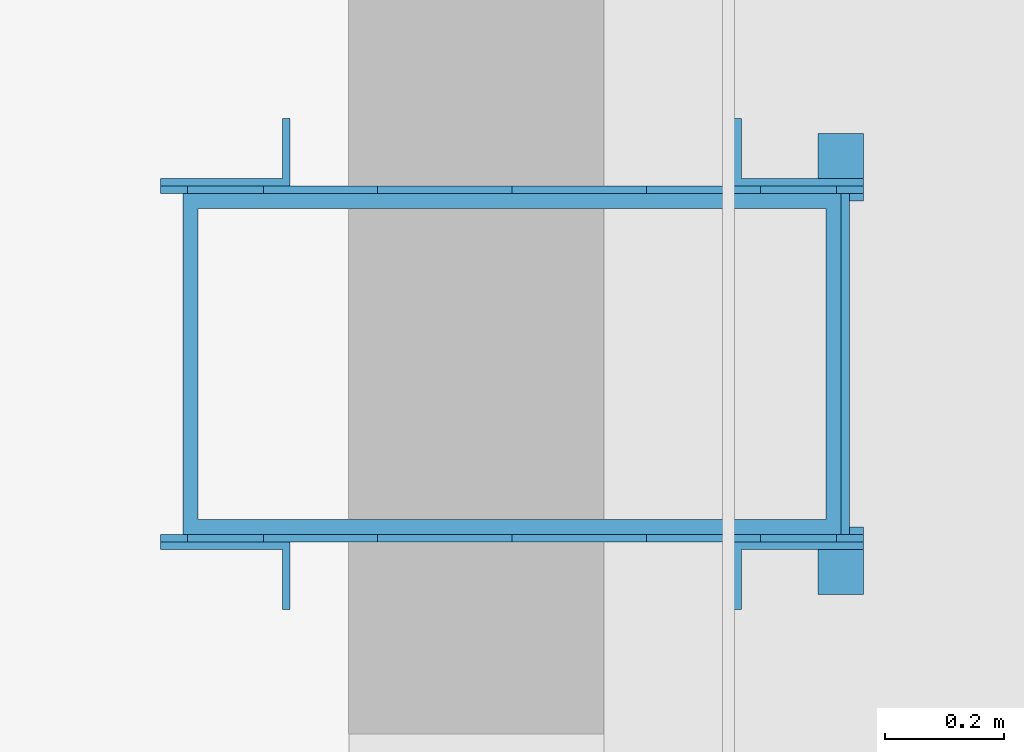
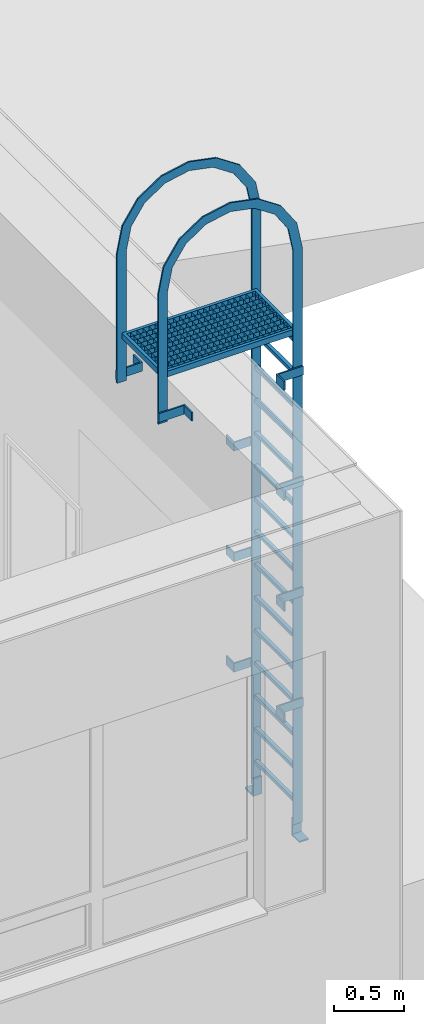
# One storey, part 75 of 194: 1 stair.
"""IFC2X3 building model written with IfcOpenShell, lengths in millimetres."""

from ifc_helpers import new_model, entity, si_unit, converted_unit, derived_unit, money_unit, direction, frame, origin_with_axes, place, context, subcontext, project, spatial, open_shell, faceted_brep, surface_model, element, save


model = new_model("IFC2X3")

# Units and contexts
model_context = context("Model", 3, precision=1e-05, world=origin_with_axes(), true_north=direction((0.0, 1.0)))
body_context = subcontext(model_context, "Body", "Model", "MODEL_VIEW")
ifc_project = project(units=[si_unit("LENGTHUNIT", "METRE", prefix="MILLI"), si_unit("AREAUNIT", "SQUARE_METRE"), si_unit("VOLUMEUNIT", "CUBIC_METRE"), converted_unit("PLANEANGLEUNIT", "DEGREE", entity("IfcPlaneAngleMeasure", 0.0174532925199), si_unit("PLANEANGLEUNIT", "RADIAN"), dimensions=[0, 0, 0, 0, 0, 0, 0]), si_unit("SOLIDANGLEUNIT", "STERADIAN"), money_unit("EUR"), converted_unit("TIMEUNIT", "Year", entity("IfcTimeMeasure", 31556926.0), si_unit("TIMEUNIT", "SECOND"), dimensions=[0, 0, 1, 0, 0, 0, 0]), si_unit("MASSUNIT", "GRAM", prefix="KILO"), si_unit("THERMODYNAMICTEMPERATUREUNIT", "DEGREE_CELSIUS"), si_unit("LUMINOUSINTENSITYUNIT", "LUMEN"), si_unit("ENERGYUNIT", "JOULE", prefix="MEGA"), derived_unit("THERMALCONDUCTANCEUNIT", [(si_unit("POWERUNIT", "WATT"), 1), (si_unit("LENGTHUNIT", "METRE"), -1), (si_unit("THERMODYNAMICTEMPERATUREUNIT", "KELVIN"), -1)]), derived_unit("SPECIFICHEATCAPACITYUNIT", [(si_unit("ENERGYUNIT", "JOULE"), 1), (si_unit("MASSUNIT", "GRAM", prefix="KILO"), -1), (si_unit("THERMODYNAMICTEMPERATUREUNIT", "KELVIN"), -1)]), derived_unit("MASSDENSITYUNIT", [(si_unit("MASSUNIT", "GRAM", prefix="KILO"), 1), (si_unit("VOLUMEUNIT", "CUBIC_METRE"), -1)])], contexts=[model_context])

# Site, building, storey
site_placement = place(None, origin_with_axes())
site = spatial("IfcSite", under=ifc_project, at=site_placement, Name="Site", CompositionType="ELEMENT")
building_placement = place(site_placement, origin_with_axes())
building = spatial("IfcBuilding", under=site, at=building_placement, Name="Building", CompositionType="ELEMENT")
storey_placement = place(building_placement, frame((0.0, 0.0, 3000.0), z_axis=(0.0, 0.0, 1.0), x_axis=(1.0, 0.0, 0.0)))
storey = spatial("IfcBuildingStorey", under=building, at=storey_placement, Name="2 KORRUS", CompositionType="ELEMENT", Elevation=3000.0)

# Stair
stair_placement = place(storey_placement, frame((100846.08527, 36240.355459, 0.0), z_axis=(0.0, 0.0, 1.0), x_axis=(0.0, 1.0, 0.0)))
element("IfcStair", 1, at=stair_placement, inside=storey, Name="FU - 001", ShapeType="NOTDEFINED", context=body_context, shape_type="SurfaceModel", body=[
    faceted_brep([(-287.3, -180.0, 4350.0), (287.3, -180.0, 4350.0), (287.3, -180.0, 4400.0), (-287.3, -180.0, 4400.0), (-287.3, 929.025224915, 4350.0), (287.3, 929.025224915, 4350.0), (-261.9, -154.6, 4350.0), (261.9, -154.6, 4350.0), (261.9, 903.625224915, 4350.0), (-261.9, 903.625224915, 4350.0), (287.3, 929.025224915, 4400.0), (-287.3, 929.025224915, 4400.0), (-261.9, -154.6, 4400.0), (-261.9, 903.625224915, 4400.0), (261.9, 903.625224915, 4400.0), (261.9, -154.6, 4400.0)], [[[0, 1, 2, 3]], [[0, 4, 5, 1], [6, 7, 8, 9]], [[1, 5, 10, 2]], [[3, 2, 10, 11], [12, 13, 14, 15]], [[4, 0, 3, 11]], [[5, 4, 11, 10]], [[7, 6, 12, 15]], [[8, 7, 15, 14]], [[9, 8, 14, 13]], [[6, 9, 13, 12]]]),
    surface_model("IfcShellBasedSurfaceModel", [(-261.9, -130.0, 4400.0), (-261.9, -130.0, 4350.0), (261.9, -130.0, 4350.0), (261.9, -130.0, 4400.0)], [open_shell([[[0, 1, 2, 3]]])]),
    surface_model("IfcShellBasedSurfaceModel", [(-261.9, -80.0, 4400.0), (-261.9, -80.0, 4350.0), (261.9, -80.0, 4350.0), (261.9, -80.0, 4400.0)], [open_shell([[[0, 1, 2, 3]]])]),
    surface_model("IfcShellBasedSurfaceModel", [(-261.9, -30.0, 4400.0), (-261.9, -30.0, 4350.0), (261.9, -30.0, 4350.0), (261.9, -30.0, 4400.0)], [open_shell([[[0, 1, 2, 3]]])]),
    surface_model("IfcShellBasedSurfaceModel", [(-261.9, 20.0, 4400.0), (-261.9, 20.0, 4350.0), (261.9, 20.0, 4350.0), (261.9, 20.0, 4400.0)], [open_shell([[[0, 1, 2, 3]]])]),
    surface_model("IfcShellBasedSurfaceModel", [(-261.9, 70.0, 4400.0), (-261.9, 70.0, 4350.0), (261.9, 70.0, 4350.0), (261.9, 70.0, 4400.0)], [open_shell([[[0, 1, 2, 3]]])]),
    surface_model("IfcShellBasedSurfaceModel", [(-261.9, 120.0, 4400.0), (-261.9, 120.0, 4350.0), (261.9, 120.0, 4350.0), (261.9, 120.0, 4400.0)], [open_shell([[[0, 1, 2, 3]]])]),
    surface_model("IfcShellBasedSurfaceModel", [(-261.9, 170.0, 4400.0), (-261.9, 170.0, 4350.0), (261.9, 170.0, 4350.0), (261.9, 170.0, 4400.0)], [open_shell([[[0, 1, 2, 3]]])]),
    surface_model("IfcShellBasedSurfaceModel", [(-261.9, 220.0, 4400.0), (-261.9, 220.0, 4350.0), (261.9, 220.0, 4350.0), (261.9, 220.0, 4400.0)], [open_shell([[[0, 1, 2, 3]]])]),
    surface_model("IfcShellBasedSurfaceModel", [(-261.9, 270.0, 4400.0), (-261.9, 270.0, 4350.0), (261.9, 270.0, 4350.0), (261.9, 270.0, 4400.0)], [open_shell([[[0, 1, 2, 3]]])]),
    surface_model("IfcShellBasedSurfaceModel", [(-261.9, 320.0, 4400.0), (-261.9, 320.0, 4350.0), (261.9, 320.0, 4350.0), (261.9, 320.0, 4400.0)], [open_shell([[[0, 1, 2, 3]]])]),
    surface_model("IfcShellBasedSurfaceModel", [(-261.9, 370.0, 4400.0), (-261.9, 370.0, 4350.0), (261.9, 370.0, 4350.0), (261.9, 370.0, 4400.0)], [open_shell([[[0, 1, 2, 3]]])]),
    surface_model("IfcShellBasedSurfaceModel", [(-261.9, 420.0, 4400.0), (-261.9, 420.0, 4350.0), (261.9, 420.0, 4350.0), (261.9, 420.0, 4400.0)], [open_shell([[[0, 1, 2, 3]]])]),
    surface_model("IfcShellBasedSurfaceModel", [(-261.9, 470.0, 4400.0), (-261.9, 470.0, 4350.0), (261.9, 470.0, 4350.0), (261.9, 470.0, 4400.0)], [open_shell([[[0, 1, 2, 3]]])]),
    surface_model("IfcShellBasedSurfaceModel", [(-261.9, 520.0, 4400.0), (-261.9, 520.0, 4350.0), (261.9, 520.0, 4350.0), (261.9, 520.0, 4400.0)], [open_shell([[[0, 1, 2, 3]]])]),
    surface_model("IfcShellBasedSurfaceModel", [(-261.9, 570.0, 4400.0), (-261.9, 570.0, 4350.0), (261.9, 570.0, 4350.0), (261.9, 570.0, 4400.0)], [open_shell([[[0, 1, 2, 3]]])]),
    surface_model("IfcShellBasedSurfaceModel", [(-261.9, 620.0, 4400.0), (-261.9, 620.0, 4350.0), (261.9, 620.0, 4350.0), (261.9, 620.0, 4400.0)], [open_shell([[[0, 1, 2, 3]]])]),
    surface_model("IfcShellBasedSurfaceModel", [(-261.9, 670.0, 4400.0), (-261.9, 670.0, 4350.0), (261.9, 670.0, 4350.0), (261.9, 670.0, 4400.0)], [open_shell([[[0, 1, 2, 3]]])]),
    surface_model("IfcShellBasedSurfaceModel", [(-261.9, 720.0, 4400.0), (-261.9, 720.0, 4350.0), (261.9, 720.0, 4350.0), (261.9, 720.0, 4400.0)], [open_shell([[[0, 1, 2, 3]]])]),
    surface_model("IfcShellBasedSurfaceModel", [(-261.9, 770.0, 4400.0), (-261.9, 770.0, 4350.0), (261.9, 770.0, 4350.0), (261.9, 770.0, 4400.0)], [open_shell([[[0, 1, 2, 3]]])]),
    surface_model("IfcShellBasedSurfaceModel", [(-261.9, 820.0, 4400.0), (-261.9, 820.0, 4350.0), (261.9, 820.0, 4350.0), (261.9, 820.0, 4400.0)], [open_shell([[[0, 1, 2, 3]]])]),
    surface_model("IfcShellBasedSurfaceModel", [(-261.9, 870.0, 4400.0), (-261.9, 870.0, 4350.0), (261.9, 870.0, 4350.0), (261.9, 870.0, 4400.0)], [open_shell([[[0, 1, 2, 3]]])]),
    surface_model("IfcShellBasedSurfaceModel", [(262.7, -154.6, 4400.0), (262.7, -154.6, 4350.0), (262.7, 903.625224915, 4350.0), (262.7, 903.625224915, 4400.0)], [open_shell([[[0, 1, 2, 3]]])]),
    surface_model("IfcShellBasedSurfaceModel", [(212.7, -154.6, 4400.0), (212.7, -154.6, 4350.0), (212.7, 903.625224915, 4350.0), (212.7, 903.625224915, 4400.0)], [open_shell([[[0, 1, 2, 3]]])]),
    surface_model("IfcShellBasedSurfaceModel", [(162.7, -154.6, 4400.0), (162.7, -154.6, 4350.0), (162.7, 903.625224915, 4350.0), (162.7, 903.625224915, 4400.0)], [open_shell([[[0, 1, 2, 3]]])]),
    surface_model("IfcShellBasedSurfaceModel", [(112.7, -154.6, 4400.0), (112.7, -154.6, 4350.0), (112.7, 903.625224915, 4350.0), (112.7, 903.625224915, 4400.0)], [open_shell([[[0, 1, 2, 3]]])]),
    surface_model("IfcShellBasedSurfaceModel", [(62.7, -154.6, 4400.0), (62.7, -154.6, 4350.0), (62.7, 903.625224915, 4350.0), (62.7, 903.625224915, 4400.0)], [open_shell([[[0, 1, 2, 3]]])]),
    surface_model("IfcShellBasedSurfaceModel", [(12.7, -154.6, 4400.0), (12.7, -154.6, 4350.0), (12.7, 903.625224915, 4350.0), (12.7, 903.625224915, 4400.0)], [open_shell([[[0, 1, 2, 3]]])]),
    surface_model("IfcShellBasedSurfaceModel", [(-37.3, -154.6, 4400.0), (-37.3, -154.6, 4350.0), (-37.3, 903.625224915, 4350.0), (-37.3, 903.625224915, 4400.0)], [open_shell([[[0, 1, 2, 3]]])]),
    surface_model("IfcShellBasedSurfaceModel", [(-87.3, -154.6, 4400.0), (-87.3, -154.6, 4350.0), (-87.3, 903.625224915, 4350.0), (-87.3, 903.625224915, 4400.0)], [open_shell([[[0, 1, 2, 3]]])]),
    surface_model("IfcShellBasedSurfaceModel", [(-137.3, -154.6, 4400.0), (-137.3, -154.6, 4350.0), (-137.3, 903.625224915, 4350.0), (-137.3, 903.625224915, 4400.0)], [open_shell([[[0, 1, 2, 3]]])]),
    surface_model("IfcShellBasedSurfaceModel", [(-187.3, -154.6, 4400.0), (-187.3, -154.6, 4350.0), (-187.3, 903.625224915, 4350.0), (-187.3, 903.625224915, 4400.0)], [open_shell([[[0, 1, 2, 3]]])]),
    surface_model("IfcShellBasedSurfaceModel", [(-237.3, -154.6, 4400.0), (-237.3, -154.6, 4350.0), (-237.3, 903.625224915, 4350.0), (-237.3, 903.625224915, 4400.0)], [open_shell([[[0, 1, 2, 3]]])]),
    faceted_brep([(-388.9, -141.9, 12.7), (-388.9, -141.9, 0.0), (-388.9, -218.1, 0.0), (-388.9, -218.1, 12.7), (-287.3, -141.9, 12.7), (-287.3, -141.9, 152.4), (-274.6, -141.9, 152.4), (-274.6, -141.9, 0.0), (-274.6, -218.1, 0.0), (-274.6, -218.1, 152.4), (-287.3, -218.1, 152.4), (-287.3, -218.1, 12.7)], [[[0, 1, 2, 3]], [[0, 4, 5, 6, 7, 1]], [[1, 7, 8, 2]], [[3, 2, 8, 9, 10, 11]], [[4, 0, 3, 11]], [[5, 4, 11, 10]], [[6, 5, 10, 9]], [[7, 6, 9, 8]]]),
    faceted_brep([(388.9, -141.9, 12.7), (388.9, -218.1, 12.7), (388.9, -218.1, 0.0), (388.9, -141.9, 0.0), (287.3, -141.9, 12.7), (287.3, -218.1, 12.7), (287.3, -218.1, 152.4), (274.6, -218.1, 152.4), (274.6, -218.1, 0.0), (274.6, -141.9, 0.0), (274.6, -141.9, 152.4), (287.3, -141.9, 152.4)], [[[0, 1, 2, 3]], [[4, 5, 1, 0]], [[1, 5, 6, 7, 8, 2]], [[3, 2, 8, 9]], [[0, 3, 9, 10, 11, 4]], [[11, 6, 5, 4]], [[10, 7, 6, 11]], [[9, 8, 7, 10]]]),
    faceted_brep([(-312.7, 761.725224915, 3998.4), (-312.7, 761.725224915, 4074.6), (-312.7, 967.125224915, 4074.6), (-312.7, 967.125224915, 3998.4), (-414.3, 761.725224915, 3998.4), (-414.3, 761.725224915, 4074.6), (-414.3, 749.025224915, 4074.6), (-300.0, 749.025224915, 4074.6), (-300.0, 967.125224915, 4074.6), (-300.0, 967.125224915, 3998.4), (-300.0, 749.025224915, 3998.4), (-414.3, 749.025224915, 3998.4)], [[[0, 1, 2, 3]], [[4, 5, 1, 0]], [[1, 5, 6, 7, 8, 2]], [[3, 2, 8, 9]], [[0, 3, 9, 10, 11, 4]], [[11, 6, 5, 4]], [[10, 7, 6, 11]], [[9, 8, 7, 10]]]),
    faceted_brep([(312.7, 761.725224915, 3998.4), (312.7, 967.125224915, 3998.4), (312.7, 967.125224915, 4074.6), (312.7, 761.725224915, 4074.6), (414.3, 761.725224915, 3998.4), (414.3, 749.025224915, 3998.4), (300.0, 749.025224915, 3998.4), (300.0, 967.125224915, 3998.4), (300.0, 967.125224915, 4074.6), (300.0, 749.025224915, 4074.6), (414.3, 749.025224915, 4074.6), (414.3, 761.725224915, 4074.6)], [[[0, 1, 2, 3]], [[0, 4, 5, 6, 7, 1]], [[1, 7, 8, 2]], [[3, 2, 8, 9, 10, 11]], [[4, 0, 3, 11]], [[5, 4, 11, 10]], [[6, 5, 10, 9]], [[7, 6, 9, 8]]]),
    faceted_brep([(-312.7, 761.725224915, 3998.4), (-312.7, 761.725224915, 4074.6), (-312.7, 967.125224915, 4074.6), (-312.7, 967.125224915, 3998.4), (-414.3, 761.725224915, 3998.4), (-414.3, 761.725224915, 4074.6), (-414.3, 749.025224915, 4074.6), (-300.0, 749.025224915, 4074.6), (-300.0, 967.125224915, 4074.6), (-300.0, 967.125224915, 3998.4), (-300.0, 749.025224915, 3998.4), (-414.3, 749.025224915, 3998.4)], [[[0, 1, 2, 3]], [[4, 5, 1, 0]], [[1, 5, 6, 7, 8, 2]], [[3, 2, 8, 9]], [[0, 3, 9, 10, 11, 4]], [[11, 6, 5, 4]], [[10, 7, 6, 11]], [[9, 8, 7, 10]]]),
    faceted_brep([(312.7, 761.725224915, 3998.4), (312.7, 967.125224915, 3998.4), (312.7, 967.125224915, 4074.6), (312.7, 761.725224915, 4074.6), (414.3, 761.725224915, 3998.4), (414.3, 749.025224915, 3998.4), (300.0, 749.025224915, 3998.4), (300.0, 967.125224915, 3998.4), (300.0, 967.125224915, 4074.6), (300.0, 749.025224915, 4074.6), (414.3, 749.025224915, 4074.6), (414.3, 761.725224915, 4074.6)], [[[0, 1, 2, 3]], [[0, 4, 5, 6, 7, 1]], [[1, 7, 8, 2]], [[3, 2, 8, 9, 10, 11]], [[4, 0, 3, 11]], [[5, 4, 11, 10]], [[6, 5, 10, 9]], [[7, 6, 9, 8]]]),
    faceted_brep([(-312.7, -12.7, 1113.9), (-312.7, -218.1, 1113.9), (-312.7, -218.1, 1190.1), (-312.7, -12.7, 1190.1), (-414.3, -12.7, 1113.9), (-414.3, 0.0, 1113.9), (-300.0, 0.0, 1113.9), (-300.0, -218.1, 1113.9), (-300.0, -218.1, 1190.1), (-300.0, 0.0, 1190.1), (-414.3, 0.0, 1190.1), (-414.3, -12.7, 1190.1)], [[[0, 1, 2, 3]], [[0, 4, 5, 6, 7, 1]], [[1, 7, 8, 2]], [[3, 2, 8, 9, 10, 11]], [[4, 0, 3, 11]], [[5, 4, 11, 10]], [[6, 5, 10, 9]], [[7, 6, 9, 8]]]),
    faceted_brep([(312.7, -12.7, 1113.9), (312.7, -12.7, 1190.1), (312.7, -218.1, 1190.1), (312.7, -218.1, 1113.9), (414.3, -12.7, 1113.9), (414.3, -12.7, 1190.1), (414.3, 0.0, 1190.1), (300.0, 0.0, 1190.1), (300.0, -218.1, 1190.1), (300.0, -218.1, 1113.9), (300.0, 0.0, 1113.9), (414.3, 0.0, 1113.9)], [[[0, 1, 2, 3]], [[4, 5, 1, 0]], [[1, 5, 6, 7, 8, 2]], [[3, 2, 8, 9]], [[0, 3, 9, 10, 11, 4]], [[11, 6, 5, 4]], [[10, 7, 6, 11]], [[9, 8, 7, 10]]]),
    faceted_brep([(-312.7, -12.7, 2075.4), (-312.7, -218.1, 2075.4), (-312.7, -218.1, 2151.6), (-312.7, -12.7, 2151.6), (-414.3, -12.7, 2075.4), (-414.3, 0.0, 2075.4), (-300.0, 0.0, 2075.4), (-300.0, -218.1, 2075.4), (-300.0, -218.1, 2151.6), (-300.0, 0.0, 2151.6), (-414.3, 0.0, 2151.6), (-414.3, -12.7, 2151.6)], [[[0, 1, 2, 3]], [[0, 4, 5, 6, 7, 1]], [[1, 7, 8, 2]], [[3, 2, 8, 9, 10, 11]], [[4, 0, 3, 11]], [[5, 4, 11, 10]], [[6, 5, 10, 9]], [[7, 6, 9, 8]]]),
    faceted_brep([(312.7, -12.7, 2075.4), (312.7, -12.7, 2151.6), (312.7, -218.1, 2151.6), (312.7, -218.1, 2075.4), (414.3, -12.7, 2075.4), (414.3, -12.7, 2151.6), (414.3, 0.0, 2151.6), (300.0, 0.0, 2151.6), (300.0, -218.1, 2151.6), (300.0, -218.1, 2075.4), (300.0, 0.0, 2075.4), (414.3, 0.0, 2075.4)], [[[0, 1, 2, 3]], [[4, 5, 1, 0]], [[1, 5, 6, 7, 8, 2]], [[3, 2, 8, 9]], [[0, 3, 9, 10, 11, 4]], [[11, 6, 5, 4]], [[10, 7, 6, 11]], [[9, 8, 7, 10]]]),
    faceted_brep([(-312.7, -12.7, 3036.9), (-312.7, -218.1, 3036.9), (-312.7, -218.1, 3113.1), (-312.7, -12.7, 3113.1), (-414.3, -12.7, 3036.9), (-414.3, 0.0, 3036.9), (-300.0, 0.0, 3036.9), (-300.0, -218.1, 3036.9), (-300.0, -218.1, 3113.1), (-300.0, 0.0, 3113.1), (-414.3, 0.0, 3113.1), (-414.3, -12.7, 3113.1)], [[[0, 1, 2, 3]], [[0, 4, 5, 6, 7, 1]], [[1, 7, 8, 2]], [[3, 2, 8, 9, 10, 11]], [[4, 0, 3, 11]], [[5, 4, 11, 10]], [[6, 5, 10, 9]], [[7, 6, 9, 8]]]),
    faceted_brep([(312.7, -12.7, 3036.9), (312.7, -12.7, 3113.1), (312.7, -218.1, 3113.1), (312.7, -218.1, 3036.9), (414.3, -12.7, 3036.9), (414.3, -12.7, 3113.1), (414.3, 0.0, 3113.1), (300.0, 0.0, 3113.1), (300.0, -218.1, 3113.1), (300.0, -218.1, 3036.9), (300.0, 0.0, 3036.9), (414.3, 0.0, 3036.9)], [[[0, 1, 2, 3]], [[4, 5, 1, 0]], [[1, 5, 6, 7, 8, 2]], [[3, 2, 8, 9]], [[0, 3, 9, 10, 11, 4]], [[11, 6, 5, 4]], [[10, 7, 6, 11]], [[9, 8, 7, 10]]]),
    faceted_brep([(-312.7, -12.7, 3998.4), (-312.7, -218.1, 3998.4), (-312.7, -218.1, 4074.6), (-312.7, -12.7, 4074.6), (-414.3, -12.7, 3998.4), (-414.3, 0.0, 3998.4), (-300.0, 0.0, 3998.4), (-300.0, -218.1, 3998.4), (-300.0, -218.1, 4074.6), (-300.0, 0.0, 4074.6), (-414.3, 0.0, 4074.6), (-414.3, -12.7, 4074.6)], [[[0, 1, 2, 3]], [[0, 4, 5, 6, 7, 1]], [[1, 7, 8, 2]], [[3, 2, 8, 9, 10, 11]], [[4, 0, 3, 11]], [[5, 4, 11, 10]], [[6, 5, 10, 9]], [[7, 6, 9, 8]]]),
    faceted_brep([(312.7, -12.7, 3998.4), (312.7, -12.7, 4074.6), (312.7, -218.1, 4074.6), (312.7, -218.1, 3998.4), (414.3, -12.7, 3998.4), (414.3, -12.7, 4074.6), (414.3, 0.0, 4074.6), (300.0, 0.0, 4074.6), (300.0, -218.1, 4074.6), (300.0, -218.1, 3998.4), (300.0, 0.0, 3998.4), (414.3, 0.0, 3998.4)], [[[0, 1, 2, 3]], [[4, 5, 1, 0]], [[1, 5, 6, 7, 8, 2]], [[3, 2, 8, 9]], [[0, 3, 9, 10, 11, 4]], [[11, 6, 5, 4]], [[10, 7, 6, 11]], [[9, 8, 7, 10]]]),
    faceted_brep([(-287.3, -141.9, 101.6), (-287.3, -218.1, 101.6), (-300.0, -218.1, 101.6), (-300.0, -141.9, 101.6), (-287.3, -141.9, 5100.0), (-287.3, -102.590430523, 5297.62255105), (-287.3, 9.3537522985, 5465.15886016), (-287.3, 176.890061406, 5577.10304298), (-287.3, 374.512612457, 5616.41261246), (-287.3, 572.135163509, 5577.10304298), (-287.3, 739.671472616, 5465.15886016), (-287.3, 851.615655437, 5297.62255105), (-287.3, 890.925224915, 5100.0), (-287.3, 890.925224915, 3973.0), (-287.3, 967.125224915, 3973.0), (-287.3, 967.125224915, 5100.0), (-287.3, 922.015275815, 5326.7830286), (-287.3, 793.553009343, 5519.04039689), (-287.3, 601.295641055, 5647.50266336), (-287.3, 374.512612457, 5692.61261246), (-287.3, 147.729583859, 5647.50266336), (-287.3, -44.5277844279, 5519.04039689), (-287.3, -172.9900509, 5326.7830286), (-287.3, -218.1, 5100.0), (-300.0, -218.1, 5100.0), (-300.0, -172.9900509, 5326.7830286), (-300.0, -44.5277844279, 5519.04039689), (-300.0, 147.729583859, 5647.50266336), (-300.0, 374.512612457, 5692.61261246), (-300.0, 601.295641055, 5647.50266336), (-300.0, 793.553009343, 5519.04039689), (-300.0, 922.015275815, 5326.7830286), (-300.0, 967.125224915, 5100.0), (-300.0, 967.125224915, 3973.0), (-300.0, 890.925224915, 3973.0), (-300.0, 890.925224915, 5100.0), (-300.0, 851.615655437, 5297.62255105), (-300.0, 739.671472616, 5465.15886016), (-300.0, 572.135163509, 5577.10304298), (-300.0, 374.512612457, 5616.41261246), (-300.0, 176.890061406, 5577.10304298), (-300.0, 9.3537522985, 5465.15886016), (-300.0, -102.590430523, 5297.62255105), (-300.0, -141.9, 5100.0)], [[[0, 1, 2, 3]], [[0, 4, 5, 6, 7, 8, 9, 10, 11, 12, 13, 14, 15, 16, 17, 18, 19, 20, 21, 22, 23, 1]], [[1, 23, 24, 2]], [[3, 2, 24, 25, 26, 27, 28, 29, 30, 31, 32, 33, 34, 35, 36, 37, 38, 39, 40, 41, 42, 43]], [[4, 0, 3, 43]], [[5, 4, 43, 42]], [[6, 5, 42, 41]], [[7, 6, 41, 40]], [[8, 7, 40, 39]], [[9, 8, 39, 38]], [[10, 9, 38, 37]], [[11, 10, 37, 36]], [[12, 11, 36, 35]], [[13, 12, 35, 34]], [[14, 13, 34, 33]], [[15, 14, 33, 32]], [[16, 15, 32, 31]], [[17, 16, 31, 30]], [[18, 17, 30, 29]], [[19, 18, 29, 28]], [[20, 19, 28, 27]], [[21, 20, 27, 26]], [[22, 21, 26, 25]], [[23, 22, 25, 24]]]),
    faceted_brep([(300.0, -141.9, 101.6), (300.0, -218.1, 101.6), (287.3, -218.1, 101.6), (287.3, -141.9, 101.6), (300.0, -141.9, 5100.0), (300.0, -102.590430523, 5297.62255105), (300.0, 9.3537522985, 5465.15886016), (300.0, 176.890061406, 5577.10304298), (300.0, 374.512612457, 5616.41261246), (300.0, 572.135163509, 5577.10304298), (300.0, 739.671472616, 5465.15886016), (300.0, 851.615655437, 5297.62255105), (300.0, 890.925224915, 5100.0), (300.0, 890.925224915, 3973.0), (300.0, 967.125224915, 3973.0), (300.0, 967.125224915, 5100.0), (300.0, 922.015275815, 5326.7830286), (300.0, 793.553009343, 5519.04039689), (300.0, 601.295641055, 5647.50266336), (300.0, 374.512612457, 5692.61261246), (300.0, 147.729583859, 5647.50266336), (300.0, -44.5277844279, 5519.04039689), (300.0, -172.9900509, 5326.7830286), (300.0, -218.1, 5100.0), (287.3, -218.1, 5100.0), (287.3, -172.9900509, 5326.7830286), (287.3, -44.5277844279, 5519.04039689), (287.3, 147.729583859, 5647.50266336), (287.3, 374.512612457, 5692.61261246), (287.3, 601.295641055, 5647.50266336), (287.3, 793.553009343, 5519.04039689), (287.3, 922.015275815, 5326.7830286), (287.3, 967.125224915, 5100.0), (287.3, 967.125224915, 3973.0), (287.3, 890.925224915, 3973.0), (287.3, 890.925224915, 5100.0), (287.3, 851.615655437, 5297.62255105), (287.3, 739.671472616, 5465.15886016), (287.3, 572.135163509, 5577.10304298), (287.3, 374.512612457, 5616.41261246), (287.3, 176.890061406, 5577.10304298), (287.3, 9.3537522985, 5465.15886016), (287.3, -102.590430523, 5297.62255105), (287.3, -141.9, 5100.0)], [[[0, 1, 2, 3]], [[0, 4, 5, 6, 7, 8, 9, 10, 11, 12, 13, 14, 15, 16, 17, 18, 19, 20, 21, 22, 23, 1]], [[1, 23, 24, 2]], [[3, 2, 24, 25, 26, 27, 28, 29, 30, 31, 32, 33, 34, 35, 36, 37, 38, 39, 40, 41, 42, 43]], [[4, 0, 3, 43]], [[5, 4, 43, 42]], [[6, 5, 42, 41]], [[7, 6, 41, 40]], [[8, 7, 40, 39]], [[9, 8, 39, 38]], [[10, 9, 38, 37]], [[11, 10, 37, 36]], [[12, 11, 36, 35]], [[13, 12, 35, 34]], [[14, 13, 34, 33]], [[15, 14, 33, 32]], [[16, 15, 32, 31]], [[17, 16, 31, 30]], [[18, 17, 30, 29]], [[19, 18, 29, 28]], [[20, 19, 28, 27]], [[21, 20, 27, 26]], [[22, 21, 26, 25]], [[23, 22, 25, 24]]]),
    faceted_brep([(287.3, -195.0, 270.0), (-287.3, -195.0, 270.0), (-287.3, -165.0, 270.0), (287.3, -165.0, 270.0), (287.3, -195.0, 300.0), (-287.3, -195.0, 300.0), (-287.3, -165.0, 300.0), (287.3, -165.0, 300.0)], [[[0, 1, 2, 3]], [[1, 0, 4, 5]], [[2, 1, 5, 6]], [[3, 2, 6, 7]], [[0, 3, 7, 4]], [[5, 4, 7, 6]]]),
    faceted_brep([(287.3, -195.0, 555.714285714), (-287.3, -195.0, 555.714285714), (-287.3, -165.0, 555.714285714), (287.3, -165.0, 555.714285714), (287.3, -195.0, 585.714285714), (-287.3, -195.0, 585.714285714), (-287.3, -165.0, 585.714285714), (287.3, -165.0, 585.714285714)], [[[0, 1, 2, 3]], [[1, 0, 4, 5]], [[2, 1, 5, 6]], [[3, 2, 6, 7]], [[0, 3, 7, 4]], [[5, 4, 7, 6]]]),
    faceted_brep([(287.3, -195.0, 841.428571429), (-287.3, -195.0, 841.428571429), (-287.3, -165.0, 841.428571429), (287.3, -165.0, 841.428571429), (287.3, -195.0, 871.428571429), (-287.3, -195.0, 871.428571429), (-287.3, -165.0, 871.428571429), (287.3, -165.0, 871.428571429)], [[[0, 1, 2, 3]], [[1, 0, 4, 5]], [[2, 1, 5, 6]], [[3, 2, 6, 7]], [[0, 3, 7, 4]], [[5, 4, 7, 6]]]),
    faceted_brep([(287.3, -195.0, 1127.14285714), (-287.3, -195.0, 1127.14285714), (-287.3, -165.0, 1127.14285714), (287.3, -165.0, 1127.14285714), (287.3, -195.0, 1157.14285714), (-287.3, -195.0, 1157.14285714), (-287.3, -165.0, 1157.14285714), (287.3, -165.0, 1157.14285714)], [[[0, 1, 2, 3]], [[1, 0, 4, 5]], [[2, 1, 5, 6]], [[3, 2, 6, 7]], [[0, 3, 7, 4]], [[5, 4, 7, 6]]]),
    faceted_brep([(287.3, -195.0, 1412.85714286), (-287.3, -195.0, 1412.85714286), (-287.3, -165.0, 1412.85714286), (287.3, -165.0, 1412.85714286), (287.3, -195.0, 1442.85714286), (-287.3, -195.0, 1442.85714286), (-287.3, -165.0, 1442.85714286), (287.3, -165.0, 1442.85714286)], [[[0, 1, 2, 3]], [[1, 0, 4, 5]], [[2, 1, 5, 6]], [[3, 2, 6, 7]], [[0, 3, 7, 4]], [[5, 4, 7, 6]]]),
    faceted_brep([(287.3, -195.0, 1698.57142857), (-287.3, -195.0, 1698.57142857), (-287.3, -165.0, 1698.57142857), (287.3, -165.0, 1698.57142857), (287.3, -195.0, 1728.57142857), (-287.3, -195.0, 1728.57142857), (-287.3, -165.0, 1728.57142857), (287.3, -165.0, 1728.57142857)], [[[0, 1, 2, 3]], [[1, 0, 4, 5]], [[2, 1, 5, 6]], [[3, 2, 6, 7]], [[0, 3, 7, 4]], [[5, 4, 7, 6]]]),
    faceted_brep([(287.3, -195.0, 1984.28571429), (-287.3, -195.0, 1984.28571429), (-287.3, -165.0, 1984.28571429), (287.3, -165.0, 1984.28571429), (287.3, -195.0, 2014.28571429), (-287.3, -195.0, 2014.28571429), (-287.3, -165.0, 2014.28571429), (287.3, -165.0, 2014.28571429)], [[[0, 1, 2, 3]], [[1, 0, 4, 5]], [[2, 1, 5, 6]], [[3, 2, 6, 7]], [[0, 3, 7, 4]], [[5, 4, 7, 6]]]),
    faceted_brep([(287.3, -195.0, 2270.0), (-287.3, -195.0, 2270.0), (-287.3, -165.0, 2270.0), (287.3, -165.0, 2270.0), (287.3, -195.0, 2300.0), (-287.3, -195.0, 2300.0), (-287.3, -165.0, 2300.0), (287.3, -165.0, 2300.0)], [[[0, 1, 2, 3]], [[1, 0, 4, 5]], [[2, 1, 5, 6]], [[3, 2, 6, 7]], [[0, 3, 7, 4]], [[5, 4, 7, 6]]]),
    faceted_brep([(287.3, -195.0, 2555.71428571), (-287.3, -195.0, 2555.71428571), (-287.3, -165.0, 2555.71428571), (287.3, -165.0, 2555.71428571), (287.3, -195.0, 2585.71428571), (-287.3, -195.0, 2585.71428571), (-287.3, -165.0, 2585.71428571), (287.3, -165.0, 2585.71428571)], [[[0, 1, 2, 3]], [[1, 0, 4, 5]], [[2, 1, 5, 6]], [[3, 2, 6, 7]], [[0, 3, 7, 4]], [[5, 4, 7, 6]]]),
    faceted_brep([(287.3, -195.0, 2841.42857143), (-287.3, -195.0, 2841.42857143), (-287.3, -165.0, 2841.42857143), (287.3, -165.0, 2841.42857143), (287.3, -195.0, 2871.42857143), (-287.3, -195.0, 2871.42857143), (-287.3, -165.0, 2871.42857143), (287.3, -165.0, 2871.42857143)], [[[0, 1, 2, 3]], [[1, 0, 4, 5]], [[2, 1, 5, 6]], [[3, 2, 6, 7]], [[0, 3, 7, 4]], [[5, 4, 7, 6]]]),
    faceted_brep([(287.3, -195.0, 3127.14285714), (-287.3, -195.0, 3127.14285714), (-287.3, -165.0, 3127.14285714), (287.3, -165.0, 3127.14285714), (287.3, -195.0, 3157.14285714), (-287.3, -195.0, 3157.14285714), (-287.3, -165.0, 3157.14285714), (287.3, -165.0, 3157.14285714)], [[[0, 1, 2, 3]], [[1, 0, 4, 5]], [[2, 1, 5, 6]], [[3, 2, 6, 7]], [[0, 3, 7, 4]], [[5, 4, 7, 6]]]),
    faceted_brep([(287.3, -195.0, 3412.85714286), (-287.3, -195.0, 3412.85714286), (-287.3, -165.0, 3412.85714286), (287.3, -165.0, 3412.85714286), (287.3, -195.0, 3442.85714286), (-287.3, -195.0, 3442.85714286), (-287.3, -165.0, 3442.85714286), (287.3, -165.0, 3442.85714286)], [[[0, 1, 2, 3]], [[1, 0, 4, 5]], [[2, 1, 5, 6]], [[3, 2, 6, 7]], [[0, 3, 7, 4]], [[5, 4, 7, 6]]]),
    faceted_brep([(287.3, -195.0, 3698.57142857), (-287.3, -195.0, 3698.57142857), (-287.3, -165.0, 3698.57142857), (287.3, -165.0, 3698.57142857), (287.3, -195.0, 3728.57142857), (-287.3, -195.0, 3728.57142857), (-287.3, -165.0, 3728.57142857), (287.3, -165.0, 3728.57142857)], [[[0, 1, 2, 3]], [[1, 0, 4, 5]], [[2, 1, 5, 6]], [[3, 2, 6, 7]], [[0, 3, 7, 4]], [[5, 4, 7, 6]]]),
    faceted_brep([(287.3, -195.0, 3984.28571429), (-287.3, -195.0, 3984.28571429), (-287.3, -165.0, 3984.28571429), (287.3, -165.0, 3984.28571429), (287.3, -195.0, 4014.28571429), (-287.3, -195.0, 4014.28571429), (-287.3, -165.0, 4014.28571429), (287.3, -165.0, 4014.28571429)], [[[0, 1, 2, 3]], [[1, 0, 4, 5]], [[2, 1, 5, 6]], [[3, 2, 6, 7]], [[0, 3, 7, 4]], [[5, 4, 7, 6]]]),
    faceted_brep([(287.3, -195.0, 4270.0), (-287.3, -195.0, 4270.0), (-287.3, -165.0, 4270.0), (287.3, -165.0, 4270.0), (287.3, -195.0, 4300.0), (-287.3, -195.0, 4300.0), (-287.3, -165.0, 4300.0), (287.3, -165.0, 4300.0)], [[[0, 1, 2, 3]], [[1, 0, 4, 5]], [[2, 1, 5, 6]], [[3, 2, 6, 7]], [[0, 3, 7, 4]], [[5, 4, 7, 6]]]),
])

save(model, "model.ifc")
